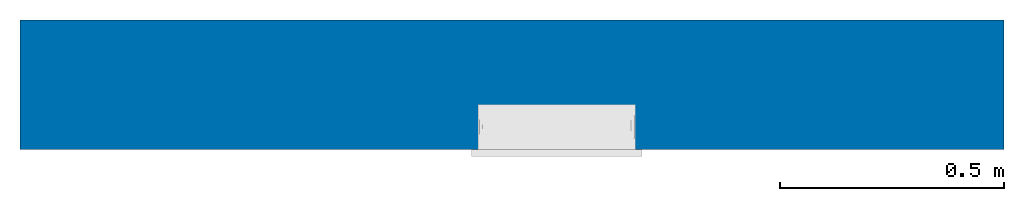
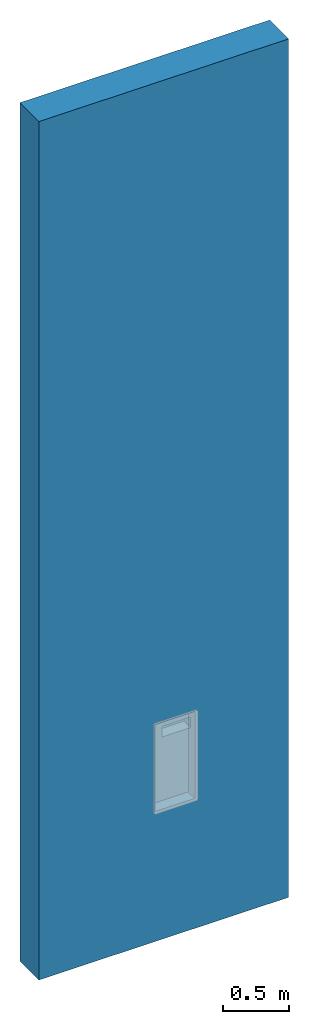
# One storey, part 1 of 2: 1 wall, 1 opening.
"""IFC2X3 building model written with IfcOpenShell, lengths in millimetres."""

from ifc_helpers import new_model, entity, si_unit, converted_unit, derived_unit, direction, frame, frame_2d, origin, place, context, subcontext, project, spatial, polyline, circle_curve, parameter, trimmed, segment, composite_curve, rectangle, outline, extrude, material, layer, layer_set, layer_usage, type_object, element, save


model = new_model("IFC2X3")

# Units and contexts
model_context = context("Model", 3, precision=0.01, world=origin(), true_north=direction((6.12303176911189e-17, 1.0)))
context_of_model = context(None, 3, precision=0.01, world=origin(), true_north=direction((6.12303176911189e-17, 1.0)))
body_context = subcontext(model_context, "Body", "Model", "MODEL_VIEW")
ifc_project = project(units=[si_unit("LENGTHUNIT", "METRE", prefix="MILLI"), si_unit("AREAUNIT", "SQUARE_METRE"), si_unit("VOLUMEUNIT", "CUBIC_METRE"), converted_unit("PLANEANGLEUNIT", "DEGREE", entity("IfcRatioMeasure", 0.0174532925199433), si_unit("PLANEANGLEUNIT", "RADIAN"), dimensions=[0, 0, 0, 0, 0, 0, 0]), si_unit("MASSUNIT", "GRAM", prefix="KILO"), si_unit("TIMEUNIT", "SECOND"), si_unit("FREQUENCYUNIT", "HERTZ"), si_unit("THERMODYNAMICTEMPERATUREUNIT", "DEGREE_CELSIUS"), derived_unit("THERMALTRANSMITTANCEUNIT", [(si_unit("MASSUNIT", "GRAM", prefix="KILO"), 1), (si_unit("THERMODYNAMICTEMPERATUREUNIT", "KELVIN"), -1), (si_unit("TIMEUNIT", "SECOND"), -3)]), derived_unit("VOLUMETRICFLOWRATEUNIT", [(si_unit("LENGTHUNIT", "METRE"), 3), (si_unit("TIMEUNIT", "SECOND"), -1)]), si_unit("ELECTRICCURRENTUNIT", "AMPERE"), si_unit("ELECTRICVOLTAGEUNIT", "VOLT"), si_unit("POWERUNIT", "WATT"), si_unit("FORCEUNIT", "NEWTON", prefix="KILO"), si_unit("ILLUMINANCEUNIT", "LUX"), si_unit("LUMINOUSFLUXUNIT", "LUMEN"), si_unit("LUMINOUSINTENSITYUNIT", "CANDELA"), si_unit("PRESSUREUNIT", "PASCAL")], contexts=[model_context, context_of_model])

# Site, building, storey
site_placement = place(None, origin())
site = spatial("IfcSite", under=ifc_project, at=site_placement, Name="Default", CompositionType="ELEMENT")
building_placement = place(site_placement, origin())
building = spatial("IfcBuilding", under=site, at=building_placement, CompositionType="ELEMENT")
storey_placement = place(building_placement, origin())
storey = spatial("IfcBuildingStorey", under=building, at=storey_placement, Name="Level 0", CompositionType="ELEMENT", Elevation=0.0)

# Wall, opening
ifc_material_1 = material(Name="Brick, Common")
ifc_layer_1 = layer(ifc_material_1, 102.5)
ifc_material_2 = material(Name="Fiberglass Batt")
ifc_layer_2 = layer(ifc_material_2, 75.0)
ifc_material_3 = material(Name="Concrete Masonry Units _Low Density")
ifc_layer_3 = layer(ifc_material_3, 100.0)
ifc_material_4 = material(Name="Plaster")
ifc_layer_4 = layer(ifc_material_4, 12.5)
ifc_layer_set = layer_set([ifc_layer_1, ifc_layer_2, ifc_layer_3, ifc_layer_4], Name="Basic Wall:Wall-Ext_102Bwk-75Ins-100LBlk-12P")
ifc_layer_usage = layer_usage(ifc_layer_set, "AXIS2", "NEGATIVE", 145.0)
wall_type = type_object("IfcWallType", Name="Basic Wall:Wall-Ext_102Bwk-75Ins-100LBlk-12P", PredefinedType="STANDARD", material=ifc_layer_set)
wall_placement = place(storey_placement, frame((-5334.05975115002, -14.8227788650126, 0.0)))
wall = element("IfcWallStandardCase", 1, at=wall_placement, inside=storey, type_object=wall_type, material=ifc_layer_usage, Name="Basic Wall:Wall-Ext_102Bwk-75Ins-100LBlk-12P", ObjectType="Basic Wall:Wall-Ext_102Bwk-75Ins-100LBlk-12P", context=body_context, shape_type="SweptSolid", body=[
    extrude(rectangle(XDim=2200.0, YDim=290.0, at=frame_2d((1100.0, 0.0), x_axis=(-1.0, 0.0))), origin(), (0.0, 0.0, 1.0), 8000.0),
])
opening_placement = place(wall_placement, frame((1022.40472776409, -160.0, 1209.67308831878)))
element("IfcOpeningElement", 2, at=opening_placement, cuts=wall, Name="Basic Wall:Wall-Ext_102Bwk-75Ins-100LBlk-12P", ObjectType="Recess", context=body_context, shape_type="SweptSolid", body=[
    extrude(outline(composite_curve([segment(trimmed(circle_curve(frame_2d((166.0, -395.0), x_axis=(1.0, 0.0)), 10.0), [parameter(270.0)], [parameter(4.07110999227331e-13)], True, "PARAMETER"), True, "CONTINUOUS"), segment(polyline([(176.0, -395.0), (176.0, 395.0)]), True, "CONTINUOUS"), segment(trimmed(circle_curve(frame_2d((166.0, 395.0), x_axis=(1.0, 0.0)), 10.0), [parameter(360.0)], [parameter(90.0000000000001)], True, "PARAMETER"), True, "CONTINUOUS"), segment(polyline([(166.0, 405.0), (-166.0, 405.0)]), True, "CONTINUOUS"), segment(trimmed(circle_curve(frame_2d((-166.0, 395.0), x_axis=(1.0, 0.0)), 10.0), [parameter(90.0000000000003)], [parameter(180.000000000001)], True, "PARAMETER"), True, "CONTINUOUS"), segment(polyline([(-176.0, 395.0), (-176.0, -395.0)]), True, "CONTINUOUS"), segment(trimmed(circle_curve(frame_2d((-166.0, -395.0), x_axis=(1.0, 0.0)), 10.0), [parameter(180.000000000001)], [parameter(270.0)], True, "PARAMETER"), True, "CONTINUOUS"), segment(polyline([(-166.0, -405.0), (166.0, -405.0)]), True, "CONTINUOUS")], self_intersect=False)), frame((177.595272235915, 0.0, 406.595272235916), z_axis=(0.0, 1.0, 0.0), x_axis=(1.0, 0.0, 0.0)), (0.0, 0.0, 1.0), 115.999999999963),
])

save(model, "model.ifc")
